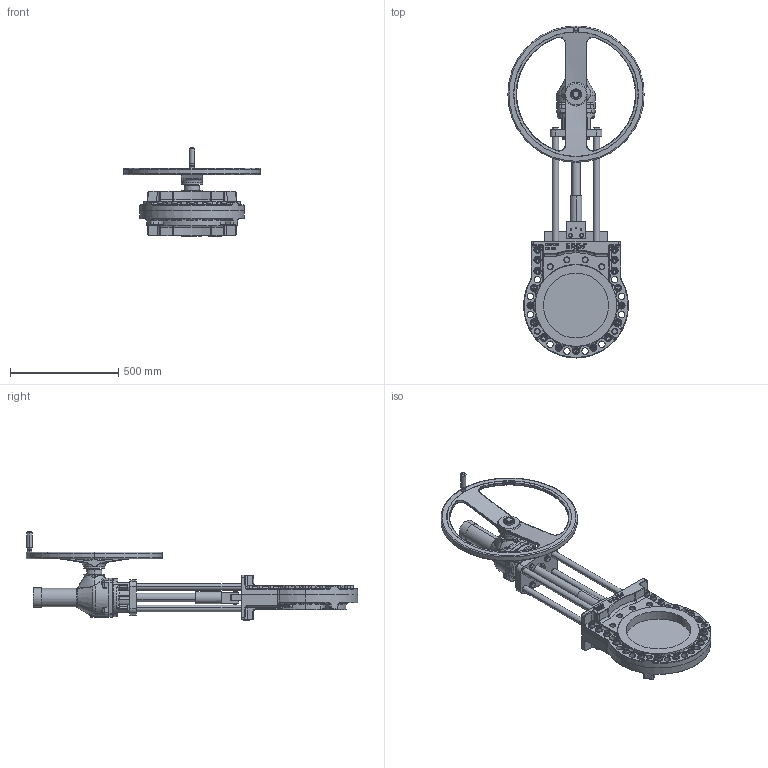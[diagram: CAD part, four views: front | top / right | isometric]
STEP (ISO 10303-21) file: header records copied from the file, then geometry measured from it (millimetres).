
FILE_DESCRIPTION (( 'STEP AP214' ), '1' );
FILE_NAME ('MHA DN 300 GK14.6.STEP', '2015-04-28T08:50:42', ( 'admin' ), ( 'Hewlett-Packard Company' ), 'SwSTEP 2.0', 'SolidWorks 2013', '' );
FILE_SCHEMA (( 'AUTOMOTIVE_DESIGN' ));
Length unit declared in the file: millimetre
Products named in the file (1): MHA DN 300 GK14.6
Bounding box: 630 x 1534 x 407.76 mm (x, y, z)
Volume: 27852450.3 mm3; surface area: 2266195.4 mm2
Topology: 56 solids, 72 shells, 3102 faces, 7431 edges, 4404 vertices
Faces by surface type: plane 959, cylinder 851, bspline 507, cone 433, torus 338, sphere 14
Entity records: 149700 total; most frequent: CARTESIAN_POINT 46191, ORIENTED_EDGE 14378, DIRECTION 14295, EDGE_CURVE 7189, AXIS2_PLACEMENT_3D 5684, VERTEX_POINT 4404, EDGE_LOOP 3395, UNCERTAINTY_MEASURE_WITH_UNIT 3158
